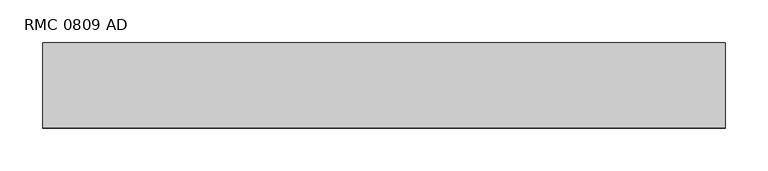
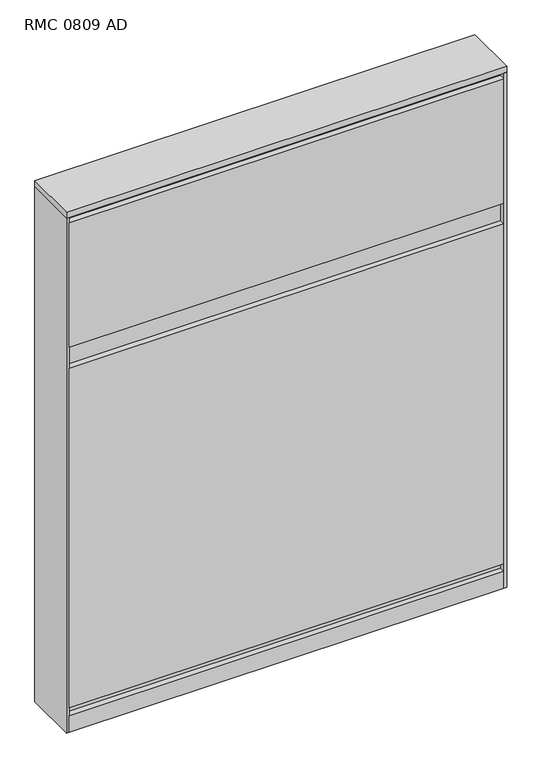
"""IFC4 building model written with IfcOpenShell, lengths in millimetres: furniture geometry, Mobiliário_MobiliáriodeEscritório_LinhaReasons_PainelCego1000mm(Acesso02Lados)-Melamina_Marelli : RMC 0809 AD."""

from ifc_helpers import new_model, si_unit, frame, origin, origin_with_axes, place, context, project, spatial, polyline, outline, extrude, source, transform, mapped, element, save


def rmc_0809_ad_62c178f1(model_context):
    return source(origin(), model_context, "Body", "SweptSolid", [
        extrude(outline(polyline([(795.0, 100.0), (800.0, 100.0), (800.0, 0.0), (795.0, 0.0), (795.0, 100.0)])), origin_with_axes(), (0.0, 0.0, 1.0), 989.0),
        extrude(outline(polyline([(800.0, 100.0), (800.0, 0.0), (0.0, 0.0), (0.0, 100.0), (800.0, 100.0)])), frame((0.0, 0.0, 989.0), z_axis=(0.0, 0.0, 1.0), x_axis=(1.0, 0.0, 0.0)), (0.0, 0.0, 1.0), 11.0),
        extrude(outline(polyline([(5.0, 11.0), (5.0, 89.0), (795.0, 89.0), (795.0, 11.0), (5.0, 11.0)])), origin_with_axes(), (0.0, 0.0, 1.0), 989.0),
        extrude(outline(polyline([(795.0, 100.0), (795.0, 89.0), (5.0, 89.0), (5.0, 100.0), (795.0, 100.0)])), origin_with_axes(), (0.0, 0.0, 1.0), 32.0),
        extrude(outline(polyline([(795.0, 11.0), (795.0, 0.0), (5.0, 0.0), (5.0, 11.0), (795.0, 11.0)])), origin_with_axes(), (0.0, 0.0, 1.0), 32.0),
        extrude(outline(polyline([(795.0, 11.0), (795.0, 0.0), (5.0, 0.0), (5.0, 11.0), (795.0, 11.0)])), frame((0.0, 0.0, 47.0), z_axis=(0.0, 0.0, 1.0), x_axis=(1.0, 0.0, 0.0)), (0.0, 0.0, 1.0), 652.3),
        extrude(outline(polyline([(795.0, 11.0), (795.0, 0.0), (5.0, 0.0), (5.0, 11.0), (795.0, 11.0)])), frame((0.0, 0.0, 739.3), z_axis=(0.0, 0.0, 1.0), x_axis=(1.0, 0.0, 0.0)), (0.0, 0.0, 1.0), 239.2),
        extrude(outline(polyline([(795.0, 100.0), (795.0, 89.0), (5.0, 89.0), (5.0, 100.0), (795.0, 100.0)])), frame((0.0, 0.0, 47.0), z_axis=(0.0, 0.0, 1.0), x_axis=(1.0, 0.0, 0.0)), (0.0, 0.0, 1.0), 652.3),
        extrude(outline(polyline([(795.0, 100.0), (795.0, 89.0), (5.0, 89.0), (5.0, 100.0), (795.0, 100.0)])), frame((0.0, 0.0, 739.3), z_axis=(0.0, 0.0, 1.0), x_axis=(1.0, 0.0, 0.0)), (0.0, 0.0, 1.0), 239.2),
        extrude(outline(polyline([(0.0, 100.0), (5.0, 100.0), (5.0, 0.0), (0.0, 0.0), (0.0, 100.0)])), origin_with_axes(), (0.0, 0.0, 1.0), 989.0),
    ])


if __name__ == "__main__":
    model = new_model("IFC4")
    model_context = context("Model", 3, world=origin())
    ifc_project = project(units=[si_unit("LENGTHUNIT", "METRE", prefix="MILLI")], contexts=[model_context])
    site = spatial("IfcSite", under=ifc_project)
    building = spatial("IfcBuilding", under=site)
    placement = place(None, origin())
    rmc_0809_ad_shape = rmc_0809_ad_62c178f1(model_context)
    element("IfcFurniture", 1, ObjectType="Mobiliário_MobiliáriodeEscritório_LinhaReasons_PainelCego1000mm(Acesso02Lados)-Melamina_Marelli : RMC 0809 AD", at=placement, inside=building, context=model_context, shape_type="MappedRepresentation", body=[
        mapped(rmc_0809_ad_shape, transform((0.0, 0.0, 0.0), x_axis=(1.0, 0.0, 0.0), y_axis=(0.0, 1.0, 0.0), z_axis=(0.0, 0.0, 1.0))),
    ])
    save(model, "model.ifc")
